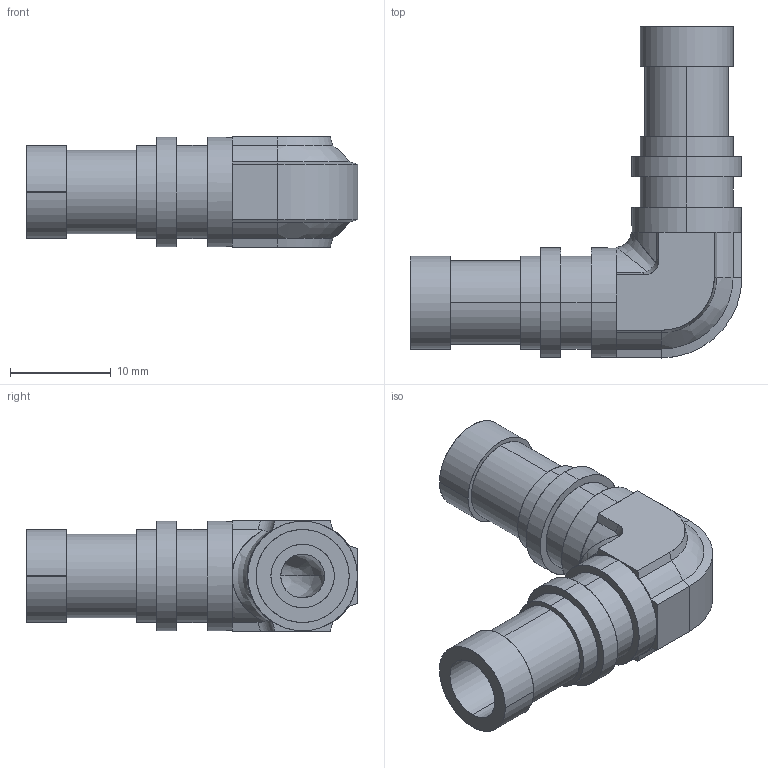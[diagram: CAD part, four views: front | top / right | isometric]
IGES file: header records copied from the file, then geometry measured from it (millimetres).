
Start section: SolidWorks IGES file using analytic representation for surfaces
Global section: file name: 70-6.3UE-P^70-6.3UE-P.IGS; native system: SolidWorks 2012; preprocessor: SolidWorks 2012; author: harada; date: 140226.174417; units: millimetre
Bounding box: 33 x 33 x 11 mm (x, y, z)
Surface area: 2823.8 mm2 (no closed solid volume)
Topology: 0 solids, 0 shells, 86 faces, 1386 edges, 1386 vertices
Faces by surface type: revolution 49, bspline 37
